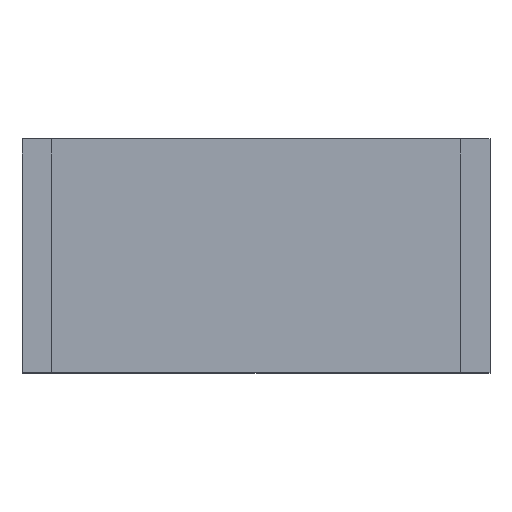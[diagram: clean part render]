
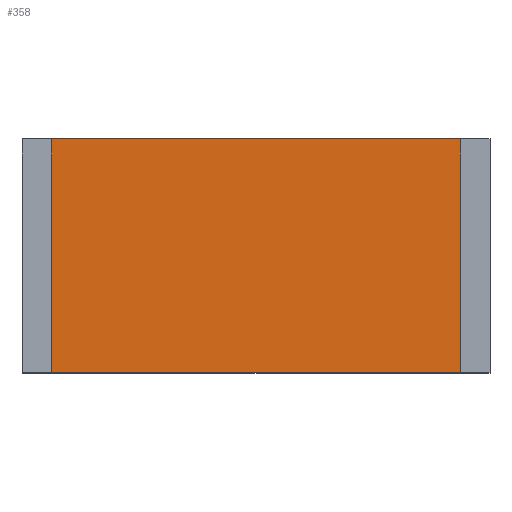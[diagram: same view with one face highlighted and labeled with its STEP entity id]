
A CAD part, top view. The second image highlights one B-rep face of the part: STEP entity #358.
In plain terms, the highlighted planar face has unit normal (0, 0, 1).
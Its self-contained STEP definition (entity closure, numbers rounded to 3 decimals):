
#358=ADVANCED_FACE('',(#586),#588,.T.);
#586=FACE_BOUND('',#587,.T.);
#587=EDGE_LOOP('',(#736,#737,#738,#739));
#588=PLANE('',#589);
#589=AXIS2_PLACEMENT_3D('',#590,#591,#592);
#590=CARTESIAN_POINT('',(0.,0.,0.99));
#591=DIRECTION('',(0.,0.,1.));
#592=DIRECTION('',(-1.,0.,0.));
#736=ORIENTED_EDGE('',*,*,#806,.T.);
#737=ORIENTED_EDGE('',*,*,#810,.T.);
#738=ORIENTED_EDGE('',*,*,#813,.T.);
#739=ORIENTED_EDGE('',*,*,#815,.T.);
#806=EDGE_CURVE('',#921,#919,#922,.T.);
#810=EDGE_CURVE('',#919,#926,#928,.T.);
#813=EDGE_CURVE('',#926,#931,#933,.T.);
#815=EDGE_CURVE('',#931,#921,#935,.T.);
#919=VERTEX_POINT('',#1161);
#921=VERTEX_POINT('',#1165);
#922=LINE('',#1166,#1167);
#926=VERTEX_POINT('',#1176);
#928=LINE('',#1180,#1181);
#931=VERTEX_POINT('',#1187);
#933=LINE('',#1191,#1192);
#935=LINE('',#1197,#1198);
#1161=CARTESIAN_POINT('',(2.8,1.6,0.99));
#1165=CARTESIAN_POINT('',(2.8,-1.6,0.99));
#1166=CARTESIAN_POINT('',(2.8,-1.6,0.99));
#1167=VECTOR('',#1168,1.);
#1168=DIRECTION('',(0.,1.,0.));
#1176=CARTESIAN_POINT('',(-2.8,1.6,0.99));
#1180=CARTESIAN_POINT('',(2.8,1.6,0.99));
#1181=VECTOR('',#1182,1.);
#1182=DIRECTION('',(-1.,0.,0.));
#1187=CARTESIAN_POINT('',(-2.8,-1.6,0.99));
#1191=CARTESIAN_POINT('',(-2.8,1.6,0.99));
#1192=VECTOR('',#1193,1.);
#1193=DIRECTION('',(0.,-1.,0.));
#1197=CARTESIAN_POINT('',(-2.8,-1.6,0.99));
#1198=VECTOR('',#1199,1.);
#1199=DIRECTION('',(1.,0.,0.));
